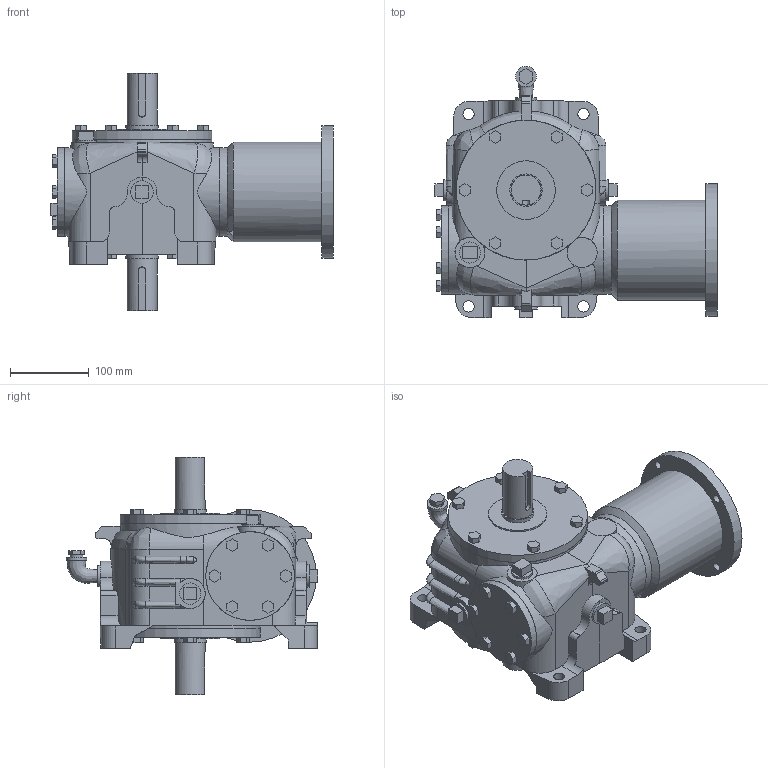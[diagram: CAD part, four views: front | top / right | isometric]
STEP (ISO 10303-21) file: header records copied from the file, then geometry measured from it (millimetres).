
FILE_DESCRIPTION(/* description */ ('Unknown'),/* implementation_level */ '2;1');
FILE_NAME(/* name */ 'HV-30-7C-BNG010',/* time_stamp */ '2024-11-21T09:30:53-05:00',/* author */ ('Unknown'),/* organization */ ('Unknown'),/* preprocessor_version */ 'ST-DEVELOPER v19.4',/* originating_system */ 'Solid Edge',/* authorisation */ 'Unknown');
FILE_SCHEMA (('AUTOMOTIVE_DESIGN {1 0 10303 214 3 1 1}'));
Length unit declared in the file: millimetre
Products named in the file (5): HV-30-7C-BNG010; 30-5-CP; 30-OUTS; 30-MTR45-56C; 30-WCAP
Assembly tree (5 placements, depth 2):
  HV-30-7C-BNG010
    30-5-CP
    30-OUTS  x2
    30-MTR45-56C
    30-WCAP
Bounding box: 358.77 x 319.71 x 301.6 mm (x, y, z)
Volume: 6712990 mm3; surface area: 605900.4 mm2
Topology: 5 solids, 6 shells, 521 faces, 1322 edges, 884 vertices
Faces by surface type: plane 352, cylinder 108, bspline 49, cone 12
Full cylindrical faces by diameter (mm): 0.254 x9, 6.35 x1, 9.525 x7, 10.319 x4, 14.122 x6, 14.287 x4, 25.387 x1, 26.162 x1, 26.987 x1, 38.087 x2, 41.123 x2, 65.088 x1, 74.497 x2, 88.9 x1, 89.408 x1, 111.252 x1, 112.712 x1, 112.776 x3, 114.3 x1, 114.338 x1, 127 x1, 168.148 x1, 177.673 x2, 177.8 x2
Entity records: 16779 total; most frequent: CARTESIAN_POINT 4972, ORIENTED_EDGE 2174, DIRECTION 2031, EDGE_CURVE 1087, VERTEX_POINT 757, AXIS2_PLACEMENT_3D 681, LINE 669, VECTOR 669
